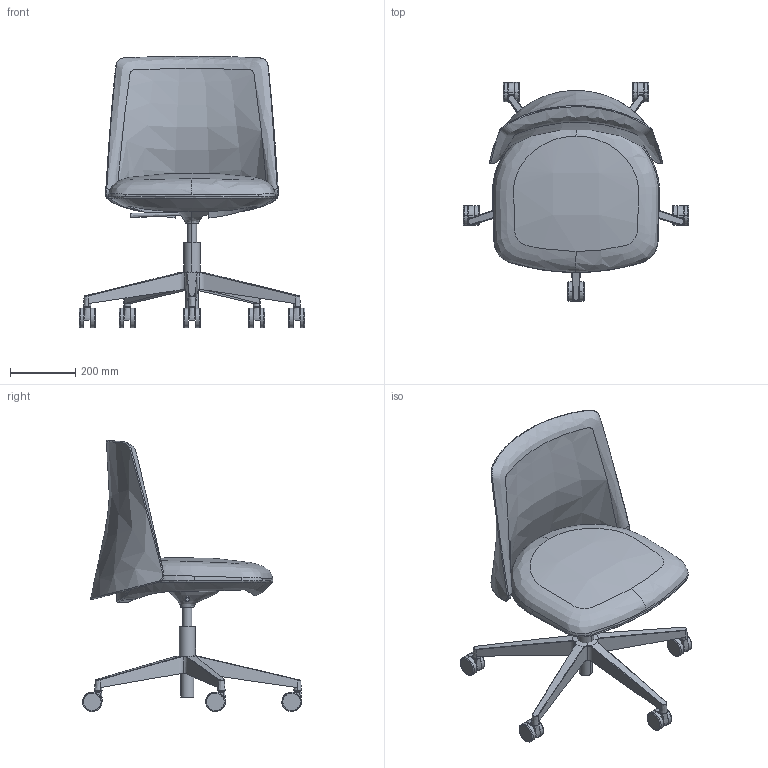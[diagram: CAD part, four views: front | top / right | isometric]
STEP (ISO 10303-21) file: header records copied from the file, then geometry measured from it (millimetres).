
FILE_DESCRIPTION(/* description */ (''),/* implementation_level */ '2;1');
FILE_NAME(/* name */ 'MEF597~1',/* time_stamp */ '2016-11-30T15:59:07+01:00',/* author */ (''),/* organization */ (''),/* preprocessor_version */ 'ST-DEVELOPER v15',/* originating_system */ '',/* authorisation */ '');
FILE_SCHEMA (('CONFIG_CONTROL_DESIGN'));
Length unit declared in the file: millimetre
Products named in the file (1): Document
Bounding box: 694.82 x 673.73 x 834.45 mm (x, y, z)
Volume: 26988201.1 mm3; surface area: 1668891.3 mm2
Topology: 4 solids, 27 shells, 252 faces, 626 edges, 379 vertices
Faces by surface type: bspline 176, plane 76
Entity records: 19120 total; most frequent: CARTESIAN_POINT 15453, ORIENTED_EDGE 1107, EDGE_CURVE 608, VERTEX_POINT 373, B_SPLINE_CURVE_WITH_KNOTS 359, ADVANCED_FACE 252, FACE_OUTER_BOUND 252, EDGE_LOOP 252
